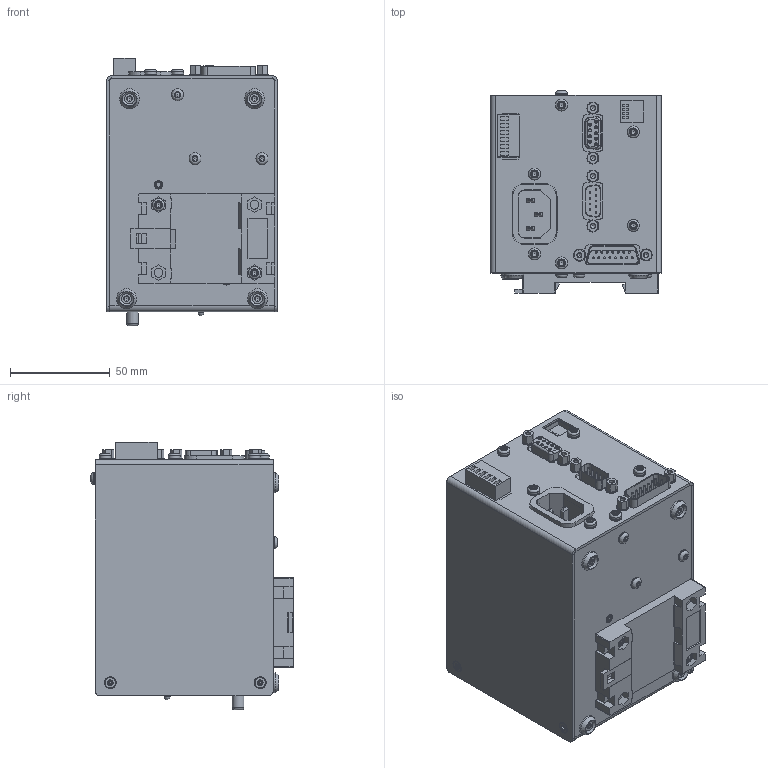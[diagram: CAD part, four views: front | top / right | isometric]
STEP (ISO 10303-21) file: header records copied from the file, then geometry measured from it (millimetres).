
FILE_DESCRIPTION(/* description */ (''),/* implementation_level */ '2;1');
FILE_NAME(/* name */ 'A:\Data\PSC232\step file\PSC232.stp',/* time_stamp */ '2021-01-04T16:47:41+01:00',/* author */ ('Delta'),/* organization */ (''),/* preprocessor_version */ 'ST-DEVELOPER v17.2',/* originating_system */ 'Autodesk Inventor 2019',/* authorisation */ '');
FILE_SCHEMA (('AUTOMOTIVE_DESIGN { 1 0 10303 214 3 1 1 }'));
Products named in the file (1): PSC232_Shrinkwrap_1
Bounding box: 85.5 x 101.2 x 133.75 mm (x, y, z)
Volume: 914289.7 mm3; surface area: 72141.1 mm2
Topology: 1 solids, 2 shells, 1751 faces, 4252 edges, 2663 vertices
Faces by surface type: plane 1182, cylinder 196, bspline 182, cone 142, torus 47, sphere 2
Full cylindrical faces by diameter (mm): 0.9 x9, 1 x15, 1.1 x9, 2.156 x6, 2.459 x6, 2.75 x6, 2.9 x2, 3.2 x8, 4.14 x6, 4.3 x6, 4.4 x2, 5 x2, 5.5 x5, 5.8 x1, 6 x25, 10 x4
Entity records: 53608 total; most frequent: CARTESIAN_POINT 12037, ORIENTED_EDGE 8456, DIRECTION 7684, EDGE_CURVE 4228, LINE 2712, VECTOR 2712, VERTEX_POINT 2663, AXIS2_PLACEMENT_3D 2486
